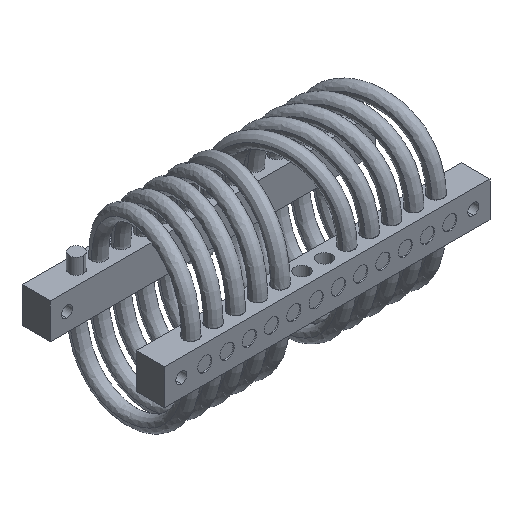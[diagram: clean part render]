
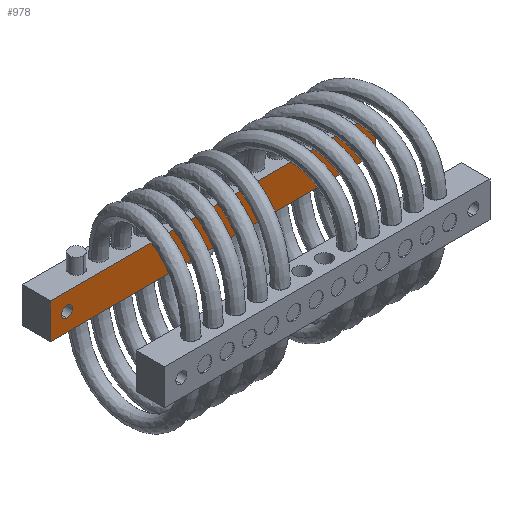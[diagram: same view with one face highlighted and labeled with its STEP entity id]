
A CAD part, isometric view. The second image highlights one B-rep face of the part: STEP entity #978.
In plain terms, the highlighted planar face has unit normal (0, -1, 0).
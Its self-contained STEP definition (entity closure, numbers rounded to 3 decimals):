
#354 = LINE ( 'NONE', #18122, #13711 ) ;
#785 = CIRCLE ( 'NONE', #13724, 2.5 ) ;
#874 = CARTESIAN_POINT ( 'NONE',  ( -73.05, 19.3, -7.95 ) ) ;
#978 = ADVANCED_FACE ( 'NONE', ( #19819, #10692, #15574 ), #8110, .F. ) ;
#2350 = VERTEX_POINT ( 'NONE', #10326 ) ;
#2530 = CARTESIAN_POINT ( 'NONE',  ( -65.55, 19.3, 2.5 ) ) ;
#2979 = ORIENTED_EDGE ( 'NONE', *, *, #22891, .T. ) ;
#3180 = CARTESIAN_POINT ( 'NONE',  ( -65.55, 19.3, -2.5 ) ) ;
#3236 = VECTOR ( 'NONE', #6223, 1000. ) ;
#3262 = CARTESIAN_POINT ( 'NONE',  ( 73.05, 19.3, 7.95 ) ) ;
#3320 = VERTEX_POINT ( 'NONE', #3180 ) ;
#3579 = ORIENTED_EDGE ( 'NONE', *, *, #17499, .T. ) ;
#3873 = EDGE_CURVE ( 'NONE', #2350, #19476, #785, .T. ) ;
#4584 = DIRECTION ( 'NONE',  ( 0., 0., 1. ) ) ;
#4667 = CARTESIAN_POINT ( 'NONE',  ( 65.55, 19.3, 0. ) ) ;
#4671 = DIRECTION ( 'NONE',  ( 0., 1., 0. ) ) ;
#4964 = AXIS2_PLACEMENT_3D ( 'NONE', #18650, #7728, #20467 ) ;
#5424 = DIRECTION ( 'NONE',  ( -1., 0., 0. ) ) ;
#5492 = LINE ( 'NONE', #9831, #3236 ) ;
#5636 = VERTEX_POINT ( 'NONE', #15980 ) ;
#5663 = CARTESIAN_POINT ( 'NONE',  ( -73.05, 19.3, -7.95 ) ) ;
#6223 = DIRECTION ( 'NONE',  ( 0., 0., -1. ) ) ;
#6479 = DIRECTION ( 'NONE',  ( 0., 0., 1. ) ) ;
#6959 = ORIENTED_EDGE ( 'NONE', *, *, #19866, .F. ) ;
#7728 = DIRECTION ( 'NONE',  ( 0., 1., 0. ) ) ;
#8027 = CARTESIAN_POINT ( 'NONE',  ( 73.05, 19.3, -7.95 ) ) ;
#8053 = ORIENTED_EDGE ( 'NONE', *, *, #20166, .F. ) ;
#8110 = PLANE ( 'NONE',  #18887 ) ;
#8464 = DIRECTION ( 'NONE',  ( 0., 1., 0. ) ) ;
#9021 = EDGE_LOOP ( 'NONE', ( #14902, #20568 ) ) ;
#9125 = DIRECTION ( 'NONE',  ( -1., 0., 0. ) ) ;
#9259 = CARTESIAN_POINT ( 'NONE',  ( -73.05, 19.3, 7.95 ) ) ;
#9630 = CARTESIAN_POINT ( 'NONE',  ( -65.55, 19.3, 0. ) ) ;
#9706 = VECTOR ( 'NONE', #9125, 1000. ) ;
#9831 = CARTESIAN_POINT ( 'NONE',  ( 73.05, 19.3, -7.95 ) ) ;
#10326 = CARTESIAN_POINT ( 'NONE',  ( 65.55, 19.3, 2.5 ) ) ;
#10590 = VECTOR ( 'NONE', #13556, 1000. ) ;
#10692 = FACE_BOUND ( 'NONE', #19872, .T. ) ;
#10835 = VERTEX_POINT ( 'NONE', #2530 ) ;
#11460 = DIRECTION ( 'NONE',  ( 0., 0., 1. ) ) ;
#11462 = VERTEX_POINT ( 'NONE', #5663 ) ;
#12019 = CIRCLE ( 'NONE', #20731, 2.5 ) ;
#12905 = CIRCLE ( 'NONE', #18441, 2.5 ) ;
#13305 = CARTESIAN_POINT ( 'NONE',  ( 65.55, 19.3, -2.5 ) ) ;
#13556 = DIRECTION ( 'NONE',  ( 0., 0., -1. ) ) ;
#13711 = VECTOR ( 'NONE', #5424, 1000. ) ;
#13724 = AXIS2_PLACEMENT_3D ( 'NONE', #4667, #17363, #6479 ) ;
#14602 = ORIENTED_EDGE ( 'NONE', *, *, #19566, .T. ) ;
#14649 = CARTESIAN_POINT ( 'NONE',  ( 73.05, 19.3, -7.95 ) ) ;
#14902 = ORIENTED_EDGE ( 'NONE', *, *, #3873, .T. ) ;
#15574 = FACE_OUTER_BOUND ( 'NONE', #21006, .T. ) ;
#15980 = CARTESIAN_POINT ( 'NONE',  ( 73.05, 19.3, -7.95 ) ) ;
#16594 = ORIENTED_EDGE ( 'NONE', *, *, #20609, .T. ) ;
#17363 = DIRECTION ( 'NONE',  ( 0., 1., 0. ) ) ;
#17499 = EDGE_CURVE ( 'NONE', #3320, #10835, #12905, .T. ) ;
#18122 = CARTESIAN_POINT ( 'NONE',  ( 73.05, 19.3, 7.95 ) ) ;
#18441 = AXIS2_PLACEMENT_3D ( 'NONE', #9630, #22368, #11460 ) ;
#18524 = VERTEX_POINT ( 'NONE', #9259 ) ;
#18650 = CARTESIAN_POINT ( 'NONE',  ( -65.55, 19.3, 0. ) ) ;
#18887 = AXIS2_PLACEMENT_3D ( 'NONE', #8027, #4671, #4584 ) ;
#19175 = EDGE_CURVE ( 'NONE', #19476, #2350, #12019, .T. ) ;
#19395 = CARTESIAN_POINT ( 'NONE',  ( 65.55, 19.3, 0. ) ) ;
#19476 = VERTEX_POINT ( 'NONE', #13305 ) ;
#19566 = EDGE_CURVE ( 'NONE', #18524, #11462, #20279, .T. ) ;
#19655 = CIRCLE ( 'NONE', #4964, 2.5 ) ;
#19819 = FACE_BOUND ( 'NONE', #9021, .T. ) ;
#19866 = EDGE_CURVE ( 'NONE', #5636, #11462, #19984, .T. ) ;
#19872 = EDGE_LOOP ( 'NONE', ( #2979, #3579 ) ) ;
#19984 = LINE ( 'NONE', #14649, #9706 ) ;
#20166 = EDGE_CURVE ( 'NONE', #21835, #5636, #5492, .T. ) ;
#20279 = LINE ( 'NONE', #874, #10590 ) ;
#20467 = DIRECTION ( 'NONE',  ( 0., 0., 1. ) ) ;
#20568 = ORIENTED_EDGE ( 'NONE', *, *, #19175, .T. ) ;
#20609 = EDGE_CURVE ( 'NONE', #21835, #18524, #354, .T. ) ;
#20731 = AXIS2_PLACEMENT_3D ( 'NONE', #19395, #8464, #21206 ) ;
#21006 = EDGE_LOOP ( 'NONE', ( #14602, #6959, #8053, #16594 ) ) ;
#21206 = DIRECTION ( 'NONE',  ( 0., 0., 1. ) ) ;
#21835 = VERTEX_POINT ( 'NONE', #3262 ) ;
#22368 = DIRECTION ( 'NONE',  ( 0., 1., 0. ) ) ;
#22891 = EDGE_CURVE ( 'NONE', #10835, #3320, #19655, .T. ) ;
